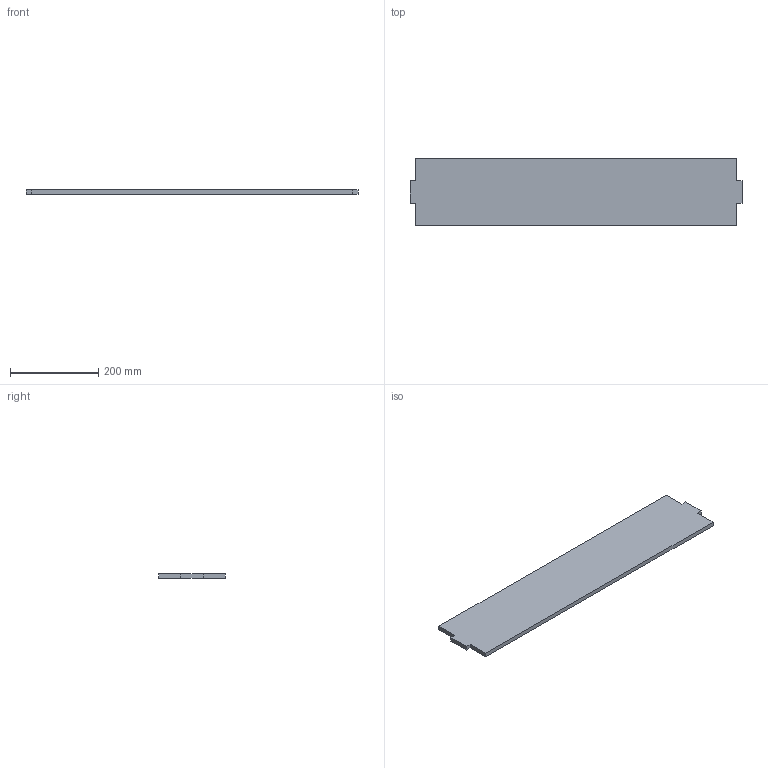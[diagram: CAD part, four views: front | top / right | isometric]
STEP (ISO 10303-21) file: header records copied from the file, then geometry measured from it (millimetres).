
FILE_DESCRIPTION (( 'STEP AP214' ), '1' );
FILE_NAME ('back side1.STEP', '2024-10-17T15:58:02', ( '' ), ( '' ), 'SwSTEP 2.0', 'SolidWorks 2020', '' );
FILE_SCHEMA (( 'AUTOMOTIVE_DESIGN' ));
Length unit declared in the file: millimetre
Products named in the file (1): back side1
Bounding box: 752 x 150 x 10 mm (x, y, z)
Volume: 1104000 mm3; surface area: 238840 mm2
Topology: 1 solids, 1 shells, 14 faces, 36 edges, 24 vertices
Faces by surface type: plane 14
Entity records: 454 total; most frequent: CARTESIAN_POINT 75, ORIENTED_EDGE 72, DIRECTION 66, VECTOR 36, EDGE_CURVE 36, LINE 36, VERTEX_POINT 24, AXIS2_PLACEMENT_3D 15
